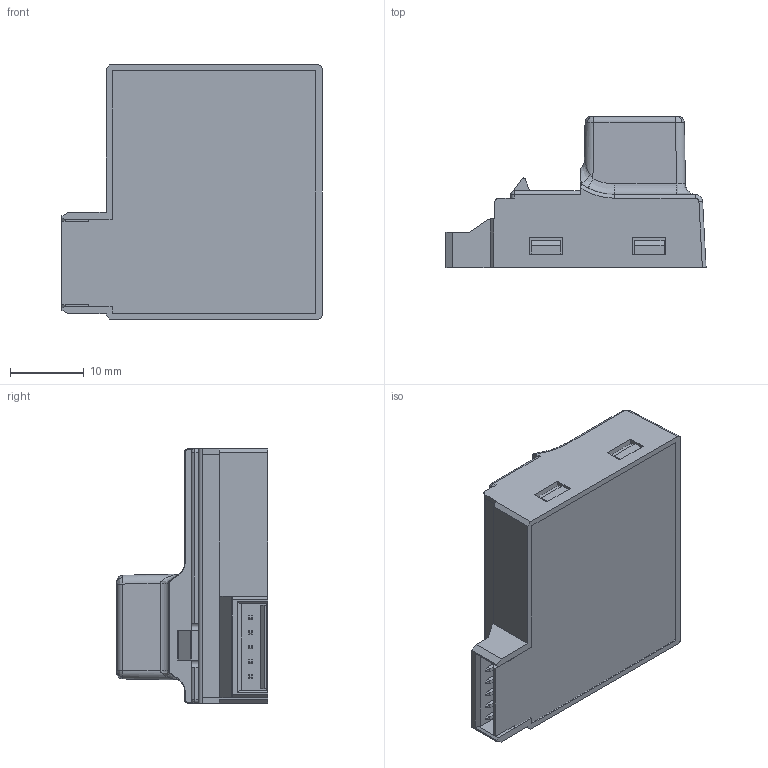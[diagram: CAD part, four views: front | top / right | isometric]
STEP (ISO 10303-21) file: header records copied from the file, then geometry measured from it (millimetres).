
FILE_DESCRIPTION((''),'2;1');
FILE_NAME('INTERFACE_USB','2014-03-14T',('LPADBY2'),('CROUZET-AUTOMATISMES'),'PRO/ENGINEER BY PARAMETRIC TECHNOLOGY CORPORATION, 2010280','PRO/ENGINEER BY PARAMETRIC TECHNOLOGY CORPORATION, 2010280','');
FILE_SCHEMA(('CONFIG_CONTROL_DESIGN'));
Length unit declared in the file: millimetre
Products named in the file (1): INTERFACE_USB
Bounding box: 35.3 x 20.57 x 34.5 mm (x, y, z)
Surface area: 9378.7 mm2 (no closed solid volume)
Topology: 0 solids, 9 shells, 559 faces, 1795 edges, 1229 vertices
Faces by surface type: plane 423, cylinder 87, bspline 30, torus 11, cone 6, sphere 2
Entity records: 20868 total; most frequent: CARTESIAN_POINT 5309, ORIENTED_EDGE 3228, DIRECTION 2960, EDGE_CURVE 1789, VECTOR 1440, LINE 1440, VERTEX_POINT 1229, AXIS2_PLACEMENT_3D 760
